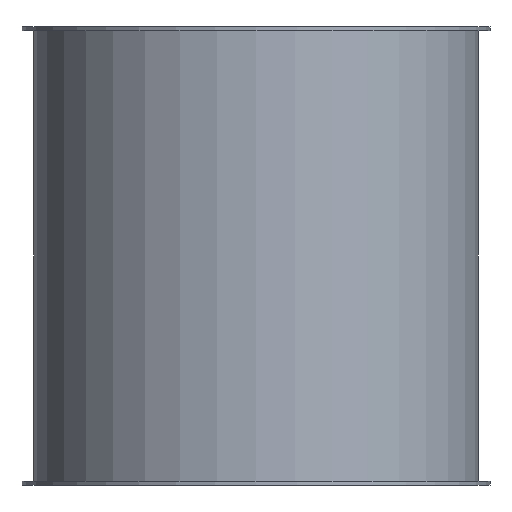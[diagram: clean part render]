
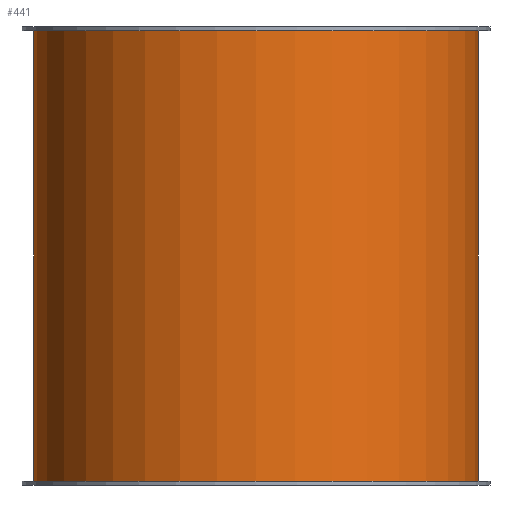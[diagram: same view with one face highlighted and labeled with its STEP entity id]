
A CAD part, front view. The second image highlights one B-rep face of the part: STEP entity #441.
In plain terms, the highlighted cylindrical face has radius 111.5 mm (diameter 223 mm), a full revolution.
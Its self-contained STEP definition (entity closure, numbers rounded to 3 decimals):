
#152=CARTESIAN_POINT('',(111.5,0.,228.0));
#153=VERTEX_POINT('',#152);
#154=CARTESIAN_POINT('',(0.0,0.0,228.0));
#155=DIRECTION('',(0.0,0.0,-1.0));
#156=DIRECTION('',(-1.0,0.0,0.0));
#157=AXIS2_PLACEMENT_3D('',#154,#155,#156);
#158=CIRCLE('',#157,111.5);
#159=EDGE_CURVE('',#153,#153,#158,.T.);
#200=CARTESIAN_POINT('',(-111.5,0.,2.0));
#201=VERTEX_POINT('',#200);
#202=CARTESIAN_POINT('',(0.0,0.0,2.0));
#203=DIRECTION('',(0.0,0.0,1.0));
#204=DIRECTION('',(-1.0,0.0,0.0));
#205=AXIS2_PLACEMENT_3D('',#202,#203,#204);
#206=CIRCLE('',#205,111.5);
#207=EDGE_CURVE('',#201,#201,#206,.T.);
#341=CARTESIAN_POINT('',(-76.5,81.117,115.));
#342=VERTEX_POINT('',#341);
#343=CARTESIAN_POINT('',(-76.5,81.117,115.));
#344=CARTESIAN_POINT('',(-76.5,81.117,109.949));
#345=CARTESIAN_POINT('',(-75.993,81.604,104.83));
#346=CARTESIAN_POINT('',(-73.963,83.448,94.806));
#347=CARTESIAN_POINT('',(-72.442,84.799,89.899));
#348=CARTESIAN_POINT('',(-68.504,88.01,80.576));
#349=CARTESIAN_POINT('',(-66.085,89.868,76.15));
#350=CARTESIAN_POINT('',(-60.543,93.691,67.977));
#351=CARTESIAN_POINT('',(-57.419,95.655,64.231));
#352=CARTESIAN_POINT('',(-50.811,99.32,57.624));
#353=CARTESIAN_POINT('',(-47.088,101.166,54.507));
#354=CARTESIAN_POINT('',(-38.914,104.583,48.952));
#355=CARTESIAN_POINT('',(-34.461,106.153,46.512));
#356=CARTESIAN_POINT('',(-25.077,108.752,42.548));
#357=CARTESIAN_POINT('',(-20.135,109.784,41.02));
#358=CARTESIAN_POINT('',(-10.09,111.158,38.995));
#359=CARTESIAN_POINT('',(-4.987,111.5,38.5));
#360=CARTESIAN_POINT('',(4.987,111.5,38.5));
#361=CARTESIAN_POINT('',(10.09,111.158,38.995));
#362=CARTESIAN_POINT('',(20.135,109.784,41.02));
#363=CARTESIAN_POINT('',(25.077,108.752,42.548));
#364=CARTESIAN_POINT('',(34.461,106.153,46.512));
#365=CARTESIAN_POINT('',(38.914,104.583,48.952));
#366=CARTESIAN_POINT('',(47.088,101.166,54.507));
#367=CARTESIAN_POINT('',(50.811,99.32,57.624));
#368=CARTESIAN_POINT('',(57.419,95.655,64.231));
#369=CARTESIAN_POINT('',(60.543,93.691,67.977));
#370=CARTESIAN_POINT('',(66.085,89.868,76.15));
#371=CARTESIAN_POINT('',(68.504,88.01,80.576));
#372=CARTESIAN_POINT('',(72.442,84.799,89.899));
#373=CARTESIAN_POINT('',(73.963,83.448,94.806));
#374=CARTESIAN_POINT('',(75.993,81.604,104.83));
#375=CARTESIAN_POINT('',(76.5,81.117,109.949));
#376=CARTESIAN_POINT('',(76.5,81.117,120.051));
#377=CARTESIAN_POINT('',(75.993,81.604,125.17));
#378=CARTESIAN_POINT('',(73.963,83.448,135.194));
#379=CARTESIAN_POINT('',(72.442,84.799,140.101));
#380=CARTESIAN_POINT('',(68.504,88.01,149.424));
#381=CARTESIAN_POINT('',(66.085,89.868,153.85));
#382=CARTESIAN_POINT('',(60.543,93.691,162.023));
#383=CARTESIAN_POINT('',(57.419,95.655,165.769));
#384=CARTESIAN_POINT('',(50.811,99.32,172.376));
#385=CARTESIAN_POINT('',(47.088,101.166,175.493));
#386=CARTESIAN_POINT('',(38.914,104.583,181.048));
#387=CARTESIAN_POINT('',(34.461,106.153,183.488));
#388=CARTESIAN_POINT('',(25.077,108.752,187.452));
#389=CARTESIAN_POINT('',(20.135,109.784,188.98));
#390=CARTESIAN_POINT('',(10.09,111.158,191.005));
#391=CARTESIAN_POINT('',(4.987,111.5,191.5));
#392=CARTESIAN_POINT('',(-4.987,111.5,191.5));
#393=CARTESIAN_POINT('',(-10.09,111.158,191.005));
#394=CARTESIAN_POINT('',(-20.135,109.784,188.98));
#395=CARTESIAN_POINT('',(-25.077,108.752,187.452));
#396=CARTESIAN_POINT('',(-34.461,106.153,183.488));
#397=CARTESIAN_POINT('',(-38.914,104.583,181.048));
#398=CARTESIAN_POINT('',(-47.088,101.166,175.493));
#399=CARTESIAN_POINT('',(-50.811,99.32,172.376));
#400=CARTESIAN_POINT('',(-57.419,95.655,165.769));
#401=CARTESIAN_POINT('',(-60.543,93.691,162.023));
#402=CARTESIAN_POINT('',(-66.085,89.868,153.85));
#403=CARTESIAN_POINT('',(-68.504,88.01,149.424));
#404=CARTESIAN_POINT('',(-72.442,84.799,140.101));
#405=CARTESIAN_POINT('',(-73.963,83.448,135.194));
#406=CARTESIAN_POINT('',(-75.993,81.604,125.17));
#407=CARTESIAN_POINT('',(-76.5,81.117,120.051));
#408=CARTESIAN_POINT('',(-76.5,81.117,115.0));
#409=B_SPLINE_CURVE_WITH_KNOTS('',3,(#343,#344,#345,#346,#347,#348,#349,#350,#351,#352,#353,#354,#355,#356,#357,#358,#359,#360,#361,#362,#363,#364,#365,#366,#367,#368,#369,#370,#371,#372,#373,#374,#375,#376,#377,#378,#379,#380,#381,#382,#383,#384,#385,#386,#387,#388,#389,#390,#391,#392,#393,#394,#395,#396,#397,#398,#399,#400,#401,#402,#403,#404,#405,#406,#407,#408),.UNSPECIFIED.,.T.,.U.,(4,2,2,2,2,2,2,2,2,2,2,2,2,2,2,2,2,2,2,2,2,2,2,2,2,2,2,2,2,2,2,2,4),(0.0,1.515,3.031,4.546,6.061,7.557,9.053,10.549,12.045,13.541,15.037,16.533,18.029,19.545,21.06,22.575,24.091,25.606,27.121,28.637,30.152,31.648,33.144,34.64,36.136,37.632,39.128,40.624,42.12,43.635,45.151,46.666,48.181),.UNSPECIFIED.);
#410=EDGE_CURVE('',#342,#342,#409,.T.);
#427=CARTESIAN_POINT('',(0.0,0.0,0.0));
#428=DIRECTION('',(0.0,0.0,1.0));
#429=DIRECTION('',(-1.0,0.0,0.0));
#430=AXIS2_PLACEMENT_3D('',#427,#428,#429);
#431=CYLINDRICAL_SURFACE('',#430,111.5);
#432=ORIENTED_EDGE('',*,*,#159,.T.);
#433=EDGE_LOOP('',(#432));
#434=FACE_OUTER_BOUND('',#433,.T.);
#435=ORIENTED_EDGE('',*,*,#207,.T.);
#436=EDGE_LOOP('',(#435));
#437=FACE_BOUND('',#436,.T.);
#438=ORIENTED_EDGE('',*,*,#410,.T.);
#439=EDGE_LOOP('',(#438));
#440=FACE_BOUND('',#439,.T.);
#441=ADVANCED_FACE('',(#434,#437,#440),#431,.T.);
